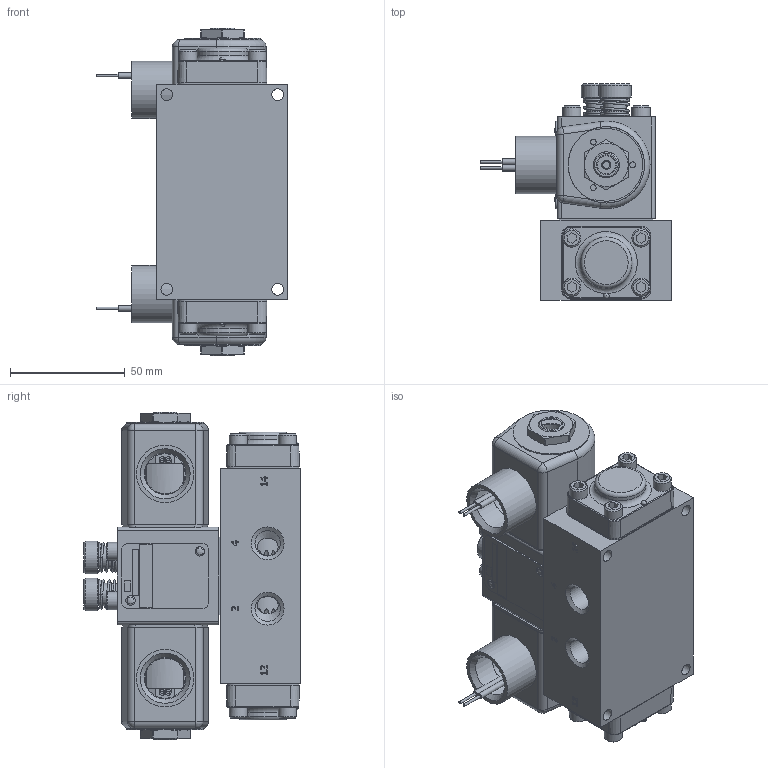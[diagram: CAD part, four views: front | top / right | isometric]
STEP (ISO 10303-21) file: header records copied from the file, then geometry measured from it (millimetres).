
FILE_DESCRIPTION(/* description */ (''),/* implementation_level */ '2;1');
FILE_NAME(/* name */ 'D:\Website New\Valves\Classic\SS\stp\SS2OT.stp',/* time_stamp */ '2020-04-08T11:38:38-04:00',/* author */ ('RMcKenna'),/* organization */ (''),/* preprocessor_version */ 'ST-DEVELOPER v17',/* originating_system */ 'Autodesk Inventor 2018',/* authorisation */ '');
FILE_SCHEMA (('AUTOMOTIVE_DESIGN { 1 0 10303 214 3 1 1 }'));
Products named in the file (1): Part3
Bounding box: 83.63 x 94.58 x 142.88 mm (x, y, z)
Volume: 364486 mm3; surface area: 139505.9 mm2
Topology: 5 solids, 39 shells, 1930 faces, 4856 edges, 3158 vertices
Faces by surface type: plane 884, cylinder 421, cone 310, torus 157, bspline 146, sphere 12
Full cylindrical faces by diameter (mm): 1.168 x4, 1.727 x6, 2.07 x2, 2.261 x2, 2.35 x2, 2.54 x4, 2.778 x2, 3.048 x4, 3.175 x4, 3.302 x2, 3.683 x12, 3.912 x1, 3.962 x2, 4.366 x9, 4.826 x16, 5.156 x12, 5.159 x5, 5.537 x7, 6.629 x4, 7.938 x12, 7.95 x3, 9.144 x2, 9.474 x8, 9.525 x2, 9.83 x2, 9.922 x2, 11.113 x5, 11.303 x2, 11.328 x2, 11.43 x2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
Entity records: 66850 total; most frequent: CARTESIAN_POINT 19184, ORIENTED_EDGE 9650, DIRECTION 9379, EDGE_CURVE 4825, AXIS2_PLACEMENT_3D 3520, VERTEX_POINT 3158, LINE 2339, VECTOR 2339
